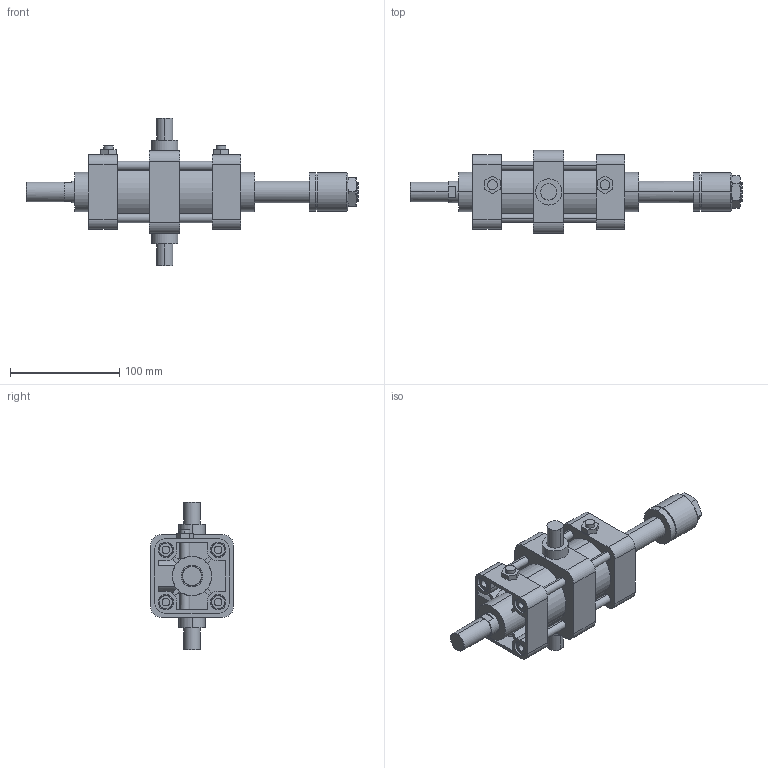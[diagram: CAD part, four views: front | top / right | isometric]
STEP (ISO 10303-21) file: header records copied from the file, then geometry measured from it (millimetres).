
FILE_DESCRIPTION (( 'STEP AP203' ), '1' );
FILE_NAME ('KGA7-50#-50-T.STEP', '2016-04-14T07:50:53', ( '' ), ( '' ), 'SwSTEP 2.0', 'SolidWorks 2014', '' );
FILE_SCHEMA (( 'CONFIG_CONTROL_DESIGN' ));
Length unit declared in the file: millimetre
Products named in the file (9): K#7-50-50-After; KGA7-50#-50-T; KGLH2-50-50; K-50-T; KGA7-50(63)-Turn
Assembly tree (18 placements, depth 2):
  KGA7-50#-50-T
    K#7-50-50-After
    KGLH2-50-50
    (unnamed)
    (unnamed)  x4
    (unnamed)  x8
    K-50-T
    KGA7-50(63)-Turn
    (unnamed)
Bounding box: 304 x 76 x 135 mm (x, y, z)
Volume: 598372.8 mm3; surface area: 140395.9 mm2
Topology: 18 solids, 22 shells, 411 faces, 948 edges, 604 vertices
Faces by surface type: plane 173, cylinder 164, torus 46, cone 28
Entity records: 10903 total; most frequent: CARTESIAN_POINT 2058, DIRECTION 1682, ORIENTED_EDGE 1516, EDGE_CURVE 758, AXIS2_PLACEMENT_3D 648, VERTEX_POINT 494, VECTOR 386, LINE 386
